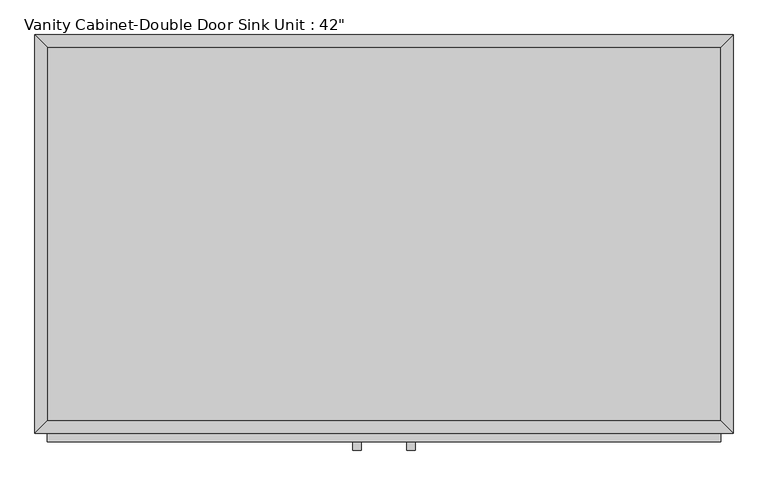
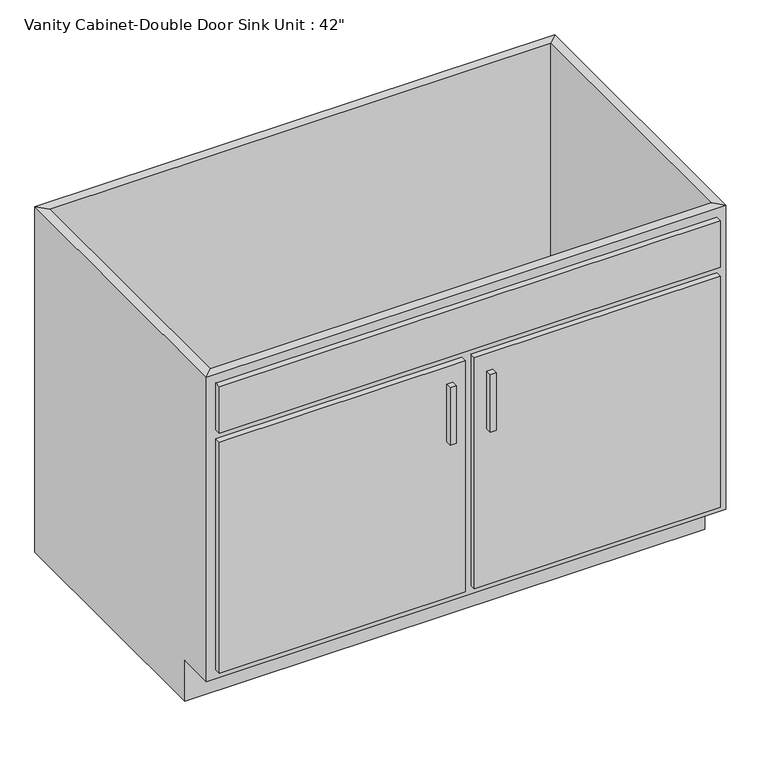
"""IFC4 building model written with IfcOpenShell, lengths in millimetres: furniture geometry."""

from ifc_helpers import new_model, si_unit, frame, origin, place, context, project, spatial, polyline, outline, extrude, faceted_brep, source, transform, mapped, element, save


def furniture_b34976c1(model_context):
    return source(origin(), model_context, "Body", "SolidModel", [
        faceted_brep([(533.0877049, -590.55, 749.3), (533.0877049, -590.55, 88.9), (-495.6122951, -590.55, 88.9), (-495.6122951, -590.55, 749.3), (-514.6622951, -609.6, 749.3), (552.1377049, -609.6, 749.3), (-514.6622951, -609.6, 88.9), (552.1377049, -609.6, 88.9), (-495.6122951, -533.4, 88.9), (-495.6122951, -19.05, 88.9), (-495.6122951, -19.05, 749.3), (-514.6622951, 0.0, 749.3), (-514.6622951, 0.0, 0.0), (-514.6622951, -533.4, 0.0), (-514.6622951, -533.4, 88.9), (533.0877049, -19.05, 88.9), (533.0877049, -19.05, 749.3), (552.1377049, 0.0, 749.3), (552.1377049, 0.0, 0.0), (533.0877049, -533.4, 88.9), (552.1377049, -533.4, 88.9), (552.1377049, -533.4, 0.0)], [[[0, 1, 2, 3]], [[0, 3, 4, 5]], [[5, 4, 6, 7]], [[2, 1, 7, 6]], [[3, 2, 8, 9, 10]], [[4, 3, 10, 11]], [[6, 4, 11, 12, 13, 14]], [[2, 6, 14, 8]], [[10, 9, 15, 16]], [[11, 10, 16, 17]], [[12, 11, 17, 18]], [[1, 0, 16, 15, 19]], [[0, 5, 17, 16]], [[5, 7, 20, 21, 18, 17]], [[7, 1, 19, 20]], [[8, 19, 15, 9]], [[18, 21, 13, 12]], [[13, 21, 20, 19, 8, 14]]]),
        extrude(outline(polyline([(-16.1872951, -635.0), (-28.8872951, -635.0), (-28.8872951, -622.3), (-16.1872951, -622.3), (-16.1872951, -635.0)])), frame((0.0, 0.0, 446.769895), z_axis=(0.0, 0.0, 1.0), x_axis=(1.0, 0.0, 0.0)), (0.0, 0.0, 1.0), 124.730105),
        extrude(outline(polyline([(66.3627049, -635.0), (53.6627049, -635.0), (53.6627049, -622.3), (66.3627049, -622.3), (66.3627049, -635.0)])), frame((0.0, 0.0, 446.769895), z_axis=(0.0, 0.0, 1.0), x_axis=(1.0, 0.0, 0.0)), (0.0, 0.0, 1.0), 124.730105),
        extrude(outline(polyline([(533.0877049, -19.05), (533.0877049, -590.55), (-495.6122951, -590.55), (-495.6122951, -19.05), (533.0877049, -19.05)])), frame((0.0, 0.0, 88.9), z_axis=(0.0, 0.0, 1.0), x_axis=(1.0, 0.0, 0.0)), (0.0, 0.0, 1.0), 19.05),
        extrude(outline(polyline([(9.2127049, -622.3), (-495.6122951, -622.3), (-495.6122951, -609.6), (9.2127049, -609.6), (9.2127049, -622.3)])), frame((0.0, 0.0, 107.95), z_axis=(0.0, 0.0, 1.0), x_axis=(1.0, 0.0, 0.0)), (0.0, 0.0, 1.0), 501.65),
        extrude(outline(polyline([(533.0877049, -622.3), (28.2627049, -622.3), (28.2627049, -609.6), (533.0877049, -609.6), (533.0877049, -622.3)])), frame((0.0, 0.0, 107.95), z_axis=(0.0, 0.0, 1.0), x_axis=(1.0, 0.0, 0.0)), (0.0, 0.0, 1.0), 501.65),
        extrude(outline(polyline([(533.0877049, -622.3), (-495.6122951, -622.3), (-495.6122951, -609.6), (533.0877049, -609.6), (533.0877049, -622.3)])), frame((0.0, 0.0, 628.65), z_axis=(0.0, 0.0, 1.0), x_axis=(1.0, 0.0, 0.0)), (0.0, 0.0, 1.0), 101.6),
    ])


if __name__ == "__main__":
    model = new_model("IFC4")
    model_context = context("Model", 3, world=origin())
    ifc_project = project(units=[si_unit("LENGTHUNIT", "METRE", prefix="MILLI")], contexts=[model_context])
    site = spatial("IfcSite", under=ifc_project)
    building = spatial("IfcBuilding", under=site)
    placement = place(None, origin())
    furniture_shape = furniture_b34976c1(model_context)
    element("IfcFurniture", 1, ObjectType="Vanity Cabinet-Double Door Sink Unit : 42\"", at=placement, inside=building, context=model_context, shape_type="MappedRepresentation", body=[
        mapped(furniture_shape, transform((0.0, 0.0, 0.0), x_axis=(1.0, 0.0, 0.0), y_axis=(0.0, 1.0, 0.0), z_axis=(0.0, 0.0, 1.0))),
    ])
    save(model, "model.ifc")
